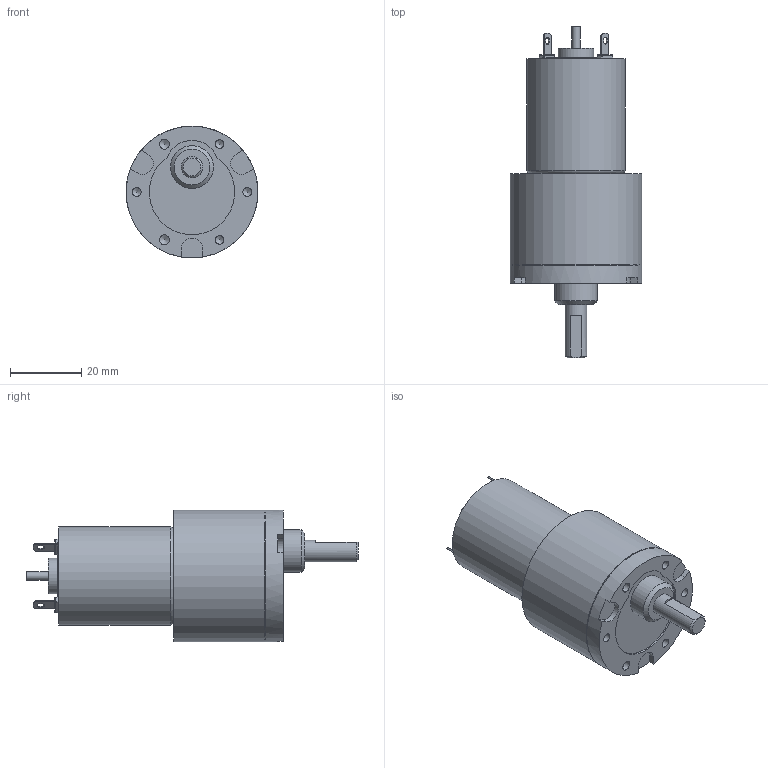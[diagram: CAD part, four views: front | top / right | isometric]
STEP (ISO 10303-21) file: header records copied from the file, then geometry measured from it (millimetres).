
FILE_DESCRIPTION((''),'2;1');
FILE_NAME('C:\Documents and Settings\SSEGAWA\デスクトップ\TP-2732D-KS-5.STP','2013-07-01T13:31:12',('SSEGAWA'),(''),'Autodesk Inventor 2010','Autodesk Inventor 2010','');
FILE_SCHEMA(('CONFIG_CONTROL_DESIGN'));
Length unit declared in the file: millimetre
Products named in the file (3): tp_2732def_ks_5; ks_5; tp_2732d,e,f
Assembly tree (2 placements, depth 2):
  tp_2732def_ks_5
    ks_5
    tp_2732d,e,f
Bounding box: 37 x 93.2 x 37 mm (x, y, z)
Volume: 53378.8 mm3; surface area: 11302.7 mm2
Topology: 3 solids, 3 shells, 162 faces, 364 edges, 233 vertices
Faces by surface type: plane 95, cylinder 36, bspline 25, torus 4, cone 2
Full cylindrical faces by diameter (mm): 2 x2, 2.305 x2, 2.5 x5, 6 x1, 9 x2, 10 x2, 12 x1, 19 x1, 26.7 x1, 27.7 x1, 36.6 x1, 37 x2
Entity records: 4421 total; most frequent: CARTESIAN_POINT 1013, DIRECTION 695, ORIENTED_EDGE 604, EDGE_CURVE 302, AXIS2_PLACEMENT_3D 253, EDGE_LOOP 233, VERTEX_POINT 213, VECTOR 189
